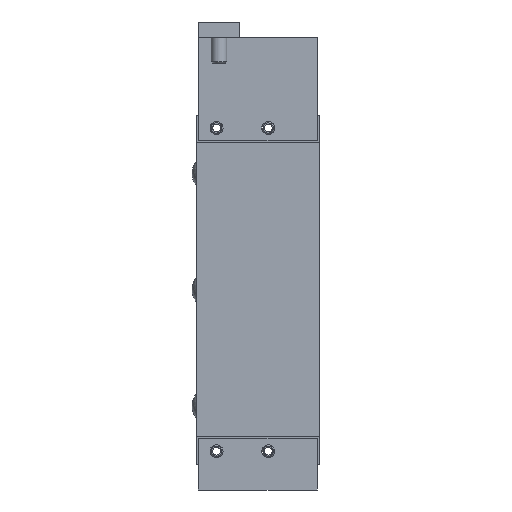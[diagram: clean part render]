
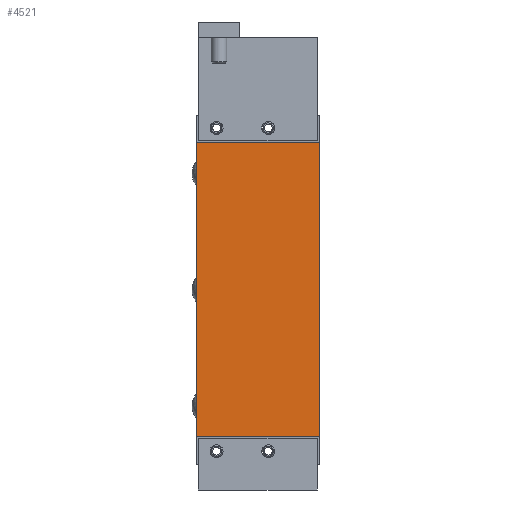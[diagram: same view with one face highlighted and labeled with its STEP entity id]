
A CAD part, left-side view. The second image highlights one B-rep face of the part: STEP entity #4521.
In plain terms, the highlighted planar face has unit normal (-1, 0, 0).
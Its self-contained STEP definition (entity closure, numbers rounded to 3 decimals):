
#198=LINE('',#7320,#504);
#215=LINE('',#7370,#521);
#224=LINE('',#7392,#530);
#226=LINE('',#7396,#532);
#504=VECTOR('',#5599,10.);
#521=VECTOR('',#5632,10.);
#530=VECTOR('',#5651,10.);
#532=VECTOR('',#5657,10.);
#921=FACE_OUTER_BOUND('',#1164,.T.);
#1164=EDGE_LOOP('',(#3092,#3093,#3094,#3095));
#1794=VERTEX_POINT('',#7317);
#1795=VERTEX_POINT('',#7319);
#1806=VERTEX_POINT('',#7368);
#1814=VERTEX_POINT('',#7390);
#2281=EDGE_CURVE('',#1794,#1795,#198,.T.);
#2302=EDGE_CURVE('',#1794,#1806,#215,.T.);
#2313=EDGE_CURVE('',#1814,#1806,#224,.T.);
#2315=EDGE_CURVE('',#1814,#1795,#226,.T.);
#3092=ORIENTED_EDGE('',*,*,#2302,.T.);
#3093=ORIENTED_EDGE('',*,*,#2313,.F.);
#3094=ORIENTED_EDGE('',*,*,#2315,.T.);
#3095=ORIENTED_EDGE('',*,*,#2281,.F.);
#4133=PLANE('',#4932);
#4521=ADVANCED_FACE('',(#921),#4133,.T.);
#4932=AXIS2_PLACEMENT_3D('',#7395,#5655,#5656);
#5599=DIRECTION('',(0.,0.,1.));
#5632=DIRECTION('',(0.,-1.,0.));
#5651=DIRECTION('',(0.,0.,-1.));
#5655=DIRECTION('center_axis',(-1.,0.,0.));
#5656=DIRECTION('ref_axis',(0.,-1.,0.));
#5657=DIRECTION('',(0.,1.,0.));
#7317=CARTESIAN_POINT('',(-13.9,23.9,-57.));
#7319=CARTESIAN_POINT('',(-13.9,23.9,57.));
#7320=CARTESIAN_POINT('',(-13.9,23.9,0.));
#7368=CARTESIAN_POINT('',(-13.9,-23.9,-57.));
#7370=CARTESIAN_POINT('',(-13.9,23.9,-57.));
#7390=CARTESIAN_POINT('',(-13.9,-23.9,57.));
#7392=CARTESIAN_POINT('',(-13.9,-23.9,0.));
#7395=CARTESIAN_POINT('Origin',(-13.9,23.9,0.));
#7396=CARTESIAN_POINT('',(-13.9,23.9,57.));
